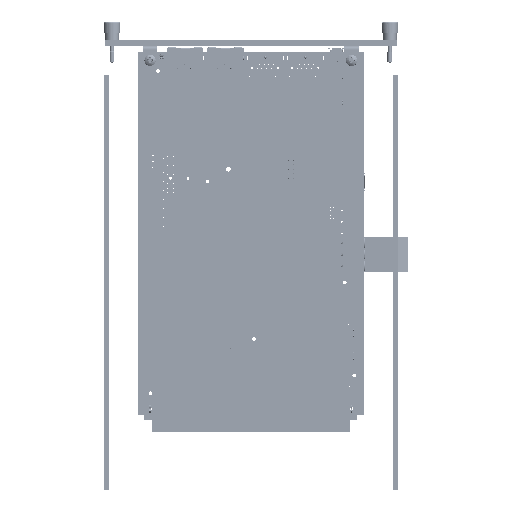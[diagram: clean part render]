
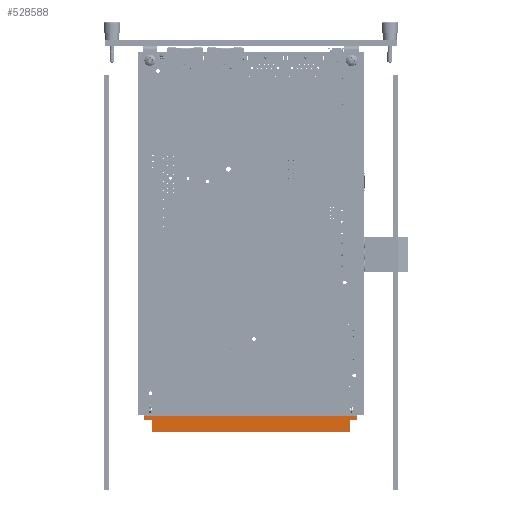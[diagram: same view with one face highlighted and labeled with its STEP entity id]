
A CAD part, left-side view. The second image highlights one B-rep face of the part: STEP entity #528588.
In plain terms, the highlighted planar face has unit normal (-1, 0, 0).
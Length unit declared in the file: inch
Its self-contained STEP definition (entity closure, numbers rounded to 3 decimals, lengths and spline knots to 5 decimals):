
#5305 = DIRECTION ( 'NONE',  ( -1., 0., 0. ) ) ;
#24654 = CARTESIAN_POINT ( 'NONE',  ( -0.06496, 0.22244, -0.12795 ) ) ;
#33252 = ORIENTED_EDGE ( 'NONE', *, *, #500205, .T. ) ;
#36774 = DIRECTION ( 'NONE',  ( 0., 0., -1. ) ) ;
#55215 = VECTOR ( 'NONE', #288928, 39.37008 ) ;
#72878 = EDGE_CURVE ( 'NONE', #144711, #120354, #176363, .T. ) ;
#82244 = LINE ( 'NONE', #588470, #395740 ) ;
#90890 = CARTESIAN_POINT ( 'NONE',  ( -0.06496, 0.22244, 3.44488 ) ) ;
#93188 = PLANE ( 'NONE',  #165199 ) ;
#105825 = LINE ( 'NONE', #193794, #162817 ) ;
#106943 = VERTEX_POINT ( 'NONE', #357184 ) ;
#120354 = VERTEX_POINT ( 'NONE', #574523 ) ;
#125260 = LINE ( 'NONE', #323341, #156058 ) ;
#139649 = LINE ( 'NONE', #90890, #55215 ) ;
#144711 = VERTEX_POINT ( 'NONE', #449890 ) ;
#156058 = VECTOR ( 'NONE', #563536, 39.37008 ) ;
#162817 = VECTOR ( 'NONE', #589612, 39.37008 ) ;
#165199 = AXIS2_PLACEMENT_3D ( 'NONE', #557062, #5305, #401583 ) ;
#176363 = LINE ( 'NONE', #559483, #411347 ) ;
#190715 = FACE_OUTER_BOUND ( 'NONE', #534504, .T. ) ;
#193794 = CARTESIAN_POINT ( 'NONE',  ( -0.06496, 0.41732, 0. ) ) ;
#207297 = VERTEX_POINT ( 'NONE', #24654 ) ;
#229332 = CARTESIAN_POINT ( 'NONE',  ( -0.06496, 0.13976, -0.12795 ) ) ;
#239377 = EDGE_CURVE ( 'NONE', #559594, #615911, #506948, .T. ) ;
#244170 = VERTEX_POINT ( 'NONE', #595325 ) ;
#254110 = EDGE_CURVE ( 'NONE', #207297, #559594, #82244, .T. ) ;
#257019 = LINE ( 'NONE', #607423, #506474 ) ;
#270373 = EDGE_CURVE ( 'NONE', #244170, #457389, #105825, .T. ) ;
#271867 = EDGE_CURVE ( 'NONE', #615911, #144711, #257019, .T. ) ;
#283575 = DIRECTION ( 'NONE',  ( 0., -1., 0. ) ) ;
#288928 = DIRECTION ( 'NONE',  ( 0., 1., 0. ) ) ;
#309090 = DIRECTION ( 'NONE',  ( 0., 0., 1. ) ) ;
#322515 = DIRECTION ( 'NONE',  ( 0., 0., -1. ) ) ;
#323341 = CARTESIAN_POINT ( 'NONE',  ( -0.06496, 0.41732, 0. ) ) ;
#348136 = CARTESIAN_POINT ( 'NONE',  ( -0.06496, 0.41732, 3.44488 ) ) ;
#357184 = CARTESIAN_POINT ( 'NONE',  ( -0.06496, 0.22244, 0. ) ) ;
#388100 = VECTOR ( 'NONE', #36774, 39.37008 ) ;
#395740 = VECTOR ( 'NONE', #283575, 39.37008 ) ;
#401583 = DIRECTION ( 'NONE',  ( 0., 1., 0. ) ) ;
#411347 = VECTOR ( 'NONE', #322515, 39.37008 ) ;
#412283 = EDGE_CURVE ( 'NONE', #106943, #207297, #481583, .T. ) ;
#422403 = CARTESIAN_POINT ( 'NONE',  ( -0.06496, 0.13976, -0.12795 ) ) ;
#433792 = ORIENTED_EDGE ( 'NONE', *, *, #270373, .F. ) ;
#449890 = CARTESIAN_POINT ( 'NONE',  ( -0.06496, 0.22244, 3.57283 ) ) ;
#457389 = VERTEX_POINT ( 'NONE', #348136 ) ;
#475198 = CARTESIAN_POINT ( 'NONE',  ( -0.06496, 0.22244, 0. ) ) ;
#481583 = LINE ( 'NONE', #475198, #388100 ) ;
#500205 = EDGE_CURVE ( 'NONE', #244170, #106943, #125260, .T. ) ;
#506474 = VECTOR ( 'NONE', #510020, 39.37008 ) ;
#506948 = LINE ( 'NONE', #422403, #572517 ) ;
#510020 = DIRECTION ( 'NONE',  ( 0., 1., 0. ) ) ;
#528588 = ADVANCED_FACE ( 'NONE', ( #190715 ), #93188, .T. ) ;
#534504 = EDGE_LOOP ( 'NONE', ( #577836, #562953, #550416, #627262, #433792, #33252, #535562, #549827 ) ) ;
#535562 = ORIENTED_EDGE ( 'NONE', *, *, #412283, .T. ) ;
#549827 = ORIENTED_EDGE ( 'NONE', *, *, #254110, .T. ) ;
#550416 = ORIENTED_EDGE ( 'NONE', *, *, #72878, .T. ) ;
#557062 = CARTESIAN_POINT ( 'NONE',  ( -0.06496, 0.42126, -0.13829 ) ) ;
#559483 = CARTESIAN_POINT ( 'NONE',  ( -0.06496, 0.22244, 3.57283 ) ) ;
#559594 = VERTEX_POINT ( 'NONE', #229332 ) ;
#562953 = ORIENTED_EDGE ( 'NONE', *, *, #271867, .T. ) ;
#563536 = DIRECTION ( 'NONE',  ( 0., -1., 0. ) ) ;
#565398 = CARTESIAN_POINT ( 'NONE',  ( -0.06496, 0.13976, 3.57283 ) ) ;
#572517 = VECTOR ( 'NONE', #309090, 39.37008 ) ;
#574523 = CARTESIAN_POINT ( 'NONE',  ( -0.06496, 0.22244, 3.44488 ) ) ;
#577836 = ORIENTED_EDGE ( 'NONE', *, *, #239377, .T. ) ;
#588470 = CARTESIAN_POINT ( 'NONE',  ( -0.06496, 0.22244, -0.12795 ) ) ;
#589612 = DIRECTION ( 'NONE',  ( 0., 0., 1. ) ) ;
#595325 = CARTESIAN_POINT ( 'NONE',  ( -0.06496, 0.41732, 0. ) ) ;
#607423 = CARTESIAN_POINT ( 'NONE',  ( -0.06496, 0.13976, 3.57283 ) ) ;
#615911 = VERTEX_POINT ( 'NONE', #565398 ) ;
#627262 = ORIENTED_EDGE ( 'NONE', *, *, #628797, .T. ) ;
#628797 = EDGE_CURVE ( 'NONE', #120354, #457389, #139649, .T. ) ;
